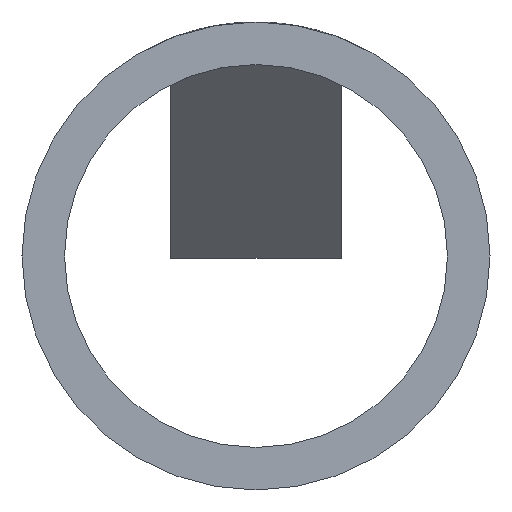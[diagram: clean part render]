
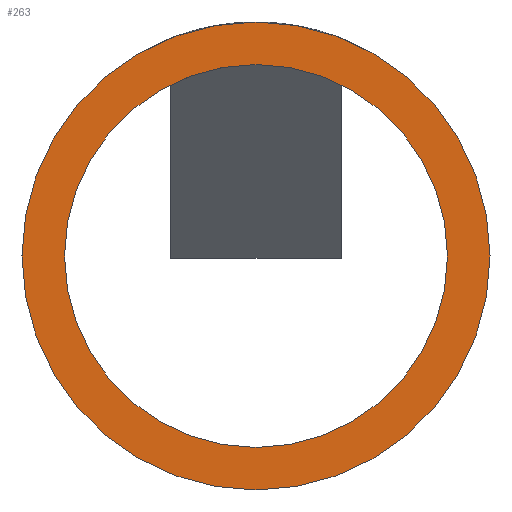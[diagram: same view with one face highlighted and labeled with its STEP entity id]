
A CAD part, front view. The second image highlights one B-rep face of the part: STEP entity #263.
In plain terms, the highlighted planar face has unit normal (0, -1, 0).
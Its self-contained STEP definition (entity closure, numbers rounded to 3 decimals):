
#15 = FACE_OUTER_BOUND ( 'NONE', #39, .T. ) ;
#39 = EDGE_LOOP ( 'NONE', ( #118, #143 ) ) ;
#41 = EDGE_LOOP ( 'NONE', ( #72, #95 ) ) ;
#56 = CIRCLE ( 'NONE', #229, 5.5 ) ;
#60 = CIRCLE ( 'NONE', #194, 4.5 ) ;
#72 = ORIENTED_EDGE ( 'NONE', *, *, #214, .F. ) ;
#75 = FACE_BOUND ( 'NONE', #41, .T. ) ;
#95 = ORIENTED_EDGE ( 'NONE', *, *, #223, .F. ) ;
#118 = ORIENTED_EDGE ( 'NONE', *, *, #193, .T. ) ;
#143 = ORIENTED_EDGE ( 'NONE', *, *, #207, .T. ) ;
#165 = CIRCLE ( 'NONE', #233, 4.5 ) ;
#179 = CIRCLE ( 'NONE', #190, 5.5 ) ;
#190 = AXIS2_PLACEMENT_3D ( 'NONE', #467, #479, #447 ) ;
#193 = EDGE_CURVE ( 'NONE', #445, #459, #179, .T. ) ;
#194 = AXIS2_PLACEMENT_3D ( 'NONE', #363, #351, #350 ) ;
#207 = EDGE_CURVE ( 'NONE', #459, #445, #56, .T. ) ;
#214 = EDGE_CURVE ( 'NONE', #451, #463, #60, .T. ) ;
#223 = EDGE_CURVE ( 'NONE', #463, #451, #165, .T. ) ;
#229 = AXIS2_PLACEMENT_3D ( 'NONE', #475, #287, #391 ) ;
#233 = AXIS2_PLACEMENT_3D ( 'NONE', #342, #325, #331 ) ;
#242 = AXIS2_PLACEMENT_3D ( 'NONE', #288, #412, #290 ) ;
#263 = ADVANCED_FACE ( 'NONE', ( #15, #75 ), #289, .T. ) ;
#287 = DIRECTION ( 'NONE',  ( 0., -1., 0. ) ) ;
#288 = CARTESIAN_POINT ( 'NONE',  ( 0., 0., 0. ) ) ;
#289 = PLANE ( 'NONE',  #242 ) ;
#290 = DIRECTION ( 'NONE',  ( -1., 0., 0. ) ) ;
#313 = CARTESIAN_POINT ( 'NONE',  ( -4.5, 0., 0. ) ) ;
#325 = DIRECTION ( 'NONE',  ( 0., -1., 0. ) ) ;
#331 = DIRECTION ( 'NONE',  ( -1., 0., 0. ) ) ;
#342 = CARTESIAN_POINT ( 'NONE',  ( 0., 0., 0. ) ) ;
#350 = DIRECTION ( 'NONE',  ( -1., 0., 0. ) ) ;
#351 = DIRECTION ( 'NONE',  ( 0., -1., 0. ) ) ;
#363 = CARTESIAN_POINT ( 'NONE',  ( 0., 0., 0. ) ) ;
#391 = DIRECTION ( 'NONE',  ( -1., 0., 0. ) ) ;
#412 = DIRECTION ( 'NONE',  ( 0., -1., 0. ) ) ;
#416 = CARTESIAN_POINT ( 'NONE',  ( -5.5, 0., 0. ) ) ;
#445 = VERTEX_POINT ( 'NONE', #483 ) ;
#447 = DIRECTION ( 'NONE',  ( -1., 0., 0. ) ) ;
#451 = VERTEX_POINT ( 'NONE', #487 ) ;
#459 = VERTEX_POINT ( 'NONE', #416 ) ;
#463 = VERTEX_POINT ( 'NONE', #313 ) ;
#467 = CARTESIAN_POINT ( 'NONE',  ( 0., 0., 0. ) ) ;
#475 = CARTESIAN_POINT ( 'NONE',  ( 0., 0., 0. ) ) ;
#479 = DIRECTION ( 'NONE',  ( 0., -1., 0. ) ) ;
#483 = CARTESIAN_POINT ( 'NONE',  ( 5.5, 0., 0. ) ) ;
#487 = CARTESIAN_POINT ( 'NONE',  ( 4.5, 0., 0. ) ) ;
